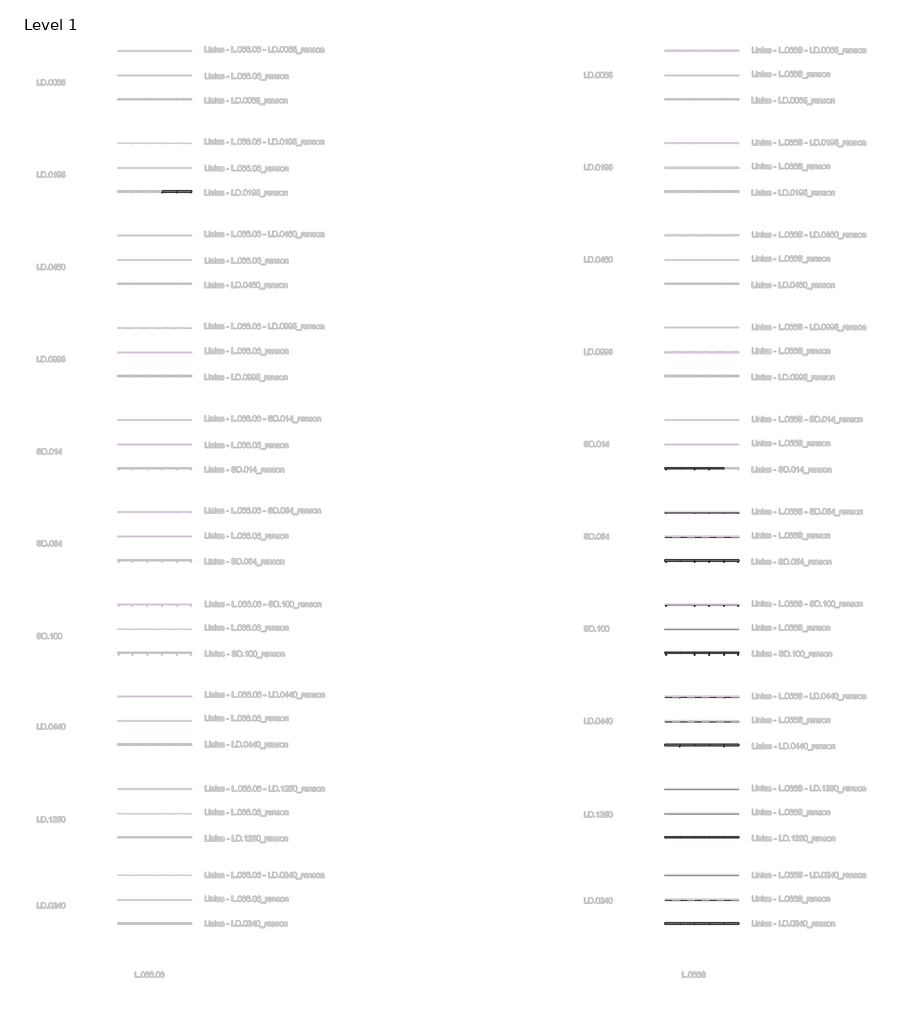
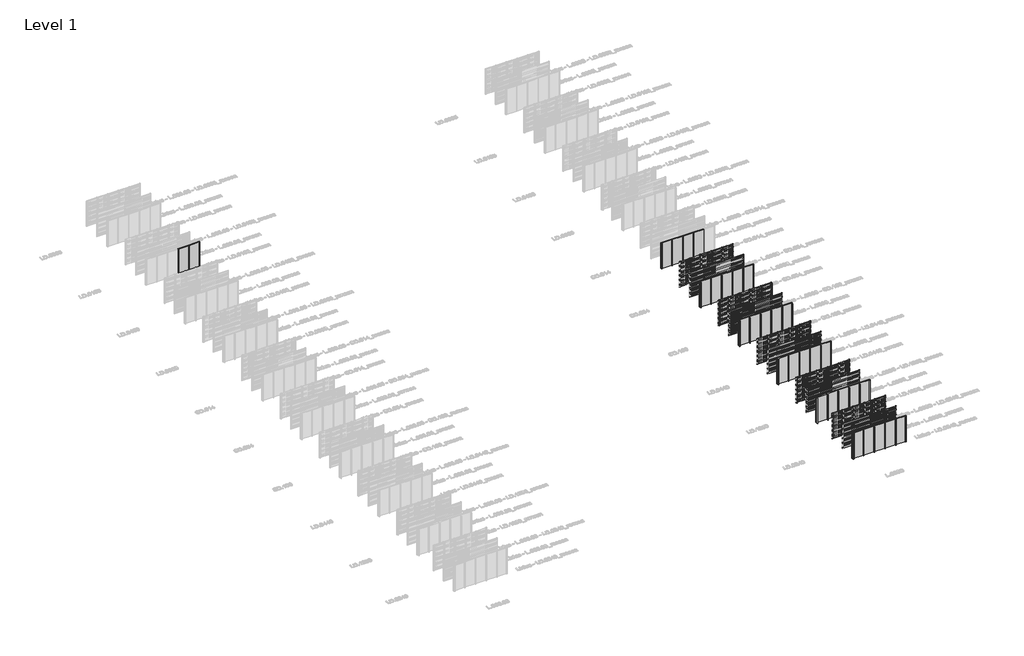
# One storey, part 4 of 540: 67 members, 61 plates.
"""IFC4 building model written with IfcOpenShell, lengths in millimetres."""

from ifc_helpers import new_model, si_unit, origin, origin_with_axes, place, context, project, spatial, polyline, outline, extrude, transform, mapped, element, save
from components import rectangular_mullion_e1f482b2, rectangular_mullion_3facce28, rectangular_mullion_6cf2c509, rectangular_mullion_8b77bd57, rectangular_mullion_2c867e25, rectangular_mullion_7803f5c4, rectangular_mullion_82152e2f, rectangular_mullion_aa1047c5, rectangular_mullion_2b84ad7e, rectangular_mullion_9b796d85, rectangular_mullion_dfb17e98, rectangular_mullion_6132f1f1, rectangular_mullion_8f153c19, rectangular_mullion_5b30f3fd, rectangular_mullion_5e0e8e0a, rectangular_mullion_d2d38772, rectangular_mullion_efb80f74, rectangular_mullion_aaa1fb1b, rectangular_mullion_ea9d012c, empty_system_panel_empty_aabbdda4

model = new_model("IFC4")

# Units and contexts
model_context = context("Model", 3, world=origin())
ifc_project = project(units=[si_unit("LENGTHUNIT", "METRE", prefix="MILLI")], contexts=[model_context])

# Site, building, storey
site = spatial("IfcSite", under=ifc_project)
building = spatial("IfcBuilding", under=site)
storey = spatial("IfcBuildingStorey", under=building, Name="Level 1", Elevation=0.0)

# Members
placement = place(None, origin())
rectangular_mullion_shape = rectangular_mullion_e1f482b2(model_context)
element("IfcMember", 1, ObjectType="Rectangular Mullion : LD.0195_renson", at=placement, inside=storey, context=model_context, shape_type="MappedRepresentation", body=[
    mapped(rectangular_mullion_shape, transform((49766.6208097, 62481.0540136, 0.0), x_axis=(-1.0, 0.0, 0.0), y_axis=(0.0, 1.0, 0.0), z_axis=(0.0, 0.0, -1.0))),
])
element("IfcMember", 2, ObjectType="Rectangular Mullion : LD.0195_renson", at=placement, inside=storey, context=model_context, shape_type="MappedRepresentation", body=[
    mapped(rectangular_mullion_shape, transform((48566.6208097, 62481.0540136, 0.0), x_axis=(-1.0, 0.0, 0.0), y_axis=(0.0, 1.0, 0.0), z_axis=(0.0, 0.0, -1.0))),
])
rectangular_mullion_2_shape = rectangular_mullion_3facce28(model_context)
element("IfcMember", 3, ObjectType="Rectangular Mullion : SD.014_renson", at=placement, inside=storey, context=model_context, shape_type="MappedRepresentation", body=[
    mapped(rectangular_mullion_2_shape, transform((93066.6208096, 39983.0540136, 0.0), x_axis=(-1.0, 0.0, 0.0), y_axis=(0.0, 1.0, 0.0), z_axis=(0.0, 0.0, -1.0))),
])
element("IfcMember", 4, ObjectType="Rectangular Mullion : SD.014_renson", at=placement, inside=storey, context=model_context, shape_type="MappedRepresentation", body=[
    mapped(rectangular_mullion_2_shape, transform((91866.6208097, 39983.0540136, 0.0), x_axis=(-1.0, 0.0, 0.0), y_axis=(0.0, 1.0, 0.0), z_axis=(0.0, 0.0, -1.0))),
])
element("IfcMember", 5, ObjectType="Rectangular Mullion : SD.014_renson", at=placement, inside=storey, context=model_context, shape_type="MappedRepresentation", body=[
    mapped(rectangular_mullion_2_shape, transform((90666.6208099, 39983.0540136, 0.0), x_axis=(-1.0, 0.0, 0.0), y_axis=(0.0, 1.0, 0.0), z_axis=(0.0, 0.0, -1.0))),
])
rectangular_mullion_3_shape = rectangular_mullion_6cf2c509(model_context)
element("IfcMember", 6, ObjectType="Rectangular Mullion : SD.054_renson", at=placement, inside=storey, context=model_context, shape_type="MappedRepresentation", body=[
    mapped(rectangular_mullion_3_shape, transform((93066.6208096, 36483.0540136, 0.0), x_axis=(-1.0, 0.0, 0.0), y_axis=(0.0, 1.0, 0.0), z_axis=(0.0, 0.0, -1.0))),
])
element("IfcMember", 7, ObjectType="Rectangular Mullion : SD.054_renson", at=placement, inside=storey, context=model_context, shape_type="MappedRepresentation", body=[
    mapped(rectangular_mullion_3_shape, transform((91866.6208097, 36483.0540136, 0.0), x_axis=(-1.0, 0.0, 0.0), y_axis=(0.0, 1.0, 0.0), z_axis=(0.0, 0.0, -1.0))),
])
element("IfcMember", 8, ObjectType="Rectangular Mullion : SD.054_renson", at=placement, inside=storey, context=model_context, shape_type="MappedRepresentation", body=[
    mapped(rectangular_mullion_3_shape, transform((90666.6208099, 36483.0540136, 0.0), x_axis=(-1.0, 0.0, 0.0), y_axis=(0.0, 1.0, 0.0), z_axis=(0.0, 0.0, -1.0))),
])
element("IfcMember", 9, ObjectType="Rectangular Mullion : SD.054_renson", at=placement, inside=storey, context=model_context, shape_type="MappedRepresentation", body=[
    mapped(rectangular_mullion_3_shape, transform((94266.6208095, 32483.0540136, 0.0), x_axis=(-1.0, 0.0, 0.0), y_axis=(0.0, 1.0, 0.0), z_axis=(0.0, 0.0, -1.0))),
])
element("IfcMember", 10, ObjectType="Rectangular Mullion : SD.054_renson", at=placement, inside=storey, context=model_context, shape_type="MappedRepresentation", body=[
    mapped(rectangular_mullion_3_shape, transform((93066.6208096, 32483.0540136, 0.0), x_axis=(-1.0, 0.0, 0.0), y_axis=(0.0, 1.0, 0.0), z_axis=(0.0, 0.0, -1.0))),
])
element("IfcMember", 11, ObjectType="Rectangular Mullion : SD.054_renson", at=placement, inside=storey, context=model_context, shape_type="MappedRepresentation", body=[
    mapped(rectangular_mullion_3_shape, transform((91866.6208097, 32483.0540136, 0.0), x_axis=(-1.0, 0.0, 0.0), y_axis=(0.0, 1.0, 0.0), z_axis=(0.0, 0.0, -1.0))),
])
element("IfcMember", 12, ObjectType="Rectangular Mullion : SD.054_renson", at=placement, inside=storey, context=model_context, shape_type="MappedRepresentation", body=[
    mapped(rectangular_mullion_3_shape, transform((90666.6208099, 32483.0540136, 0.0), x_axis=(-1.0, 0.0, 0.0), y_axis=(0.0, 1.0, 0.0), z_axis=(0.0, 0.0, -1.0))),
])
element("IfcMember", 13, ObjectType="Rectangular Mullion : SD.054_renson", at=placement, inside=storey, context=model_context, shape_type="MappedRepresentation", body=[
    mapped(rectangular_mullion_3_shape, transform((94266.6208095, 36483.0540136, 0.0), x_axis=(-1.0, 0.0, 0.0), y_axis=(0.0, 1.0, 0.0), z_axis=(0.0, 0.0, -1.0))),
])
rectangular_mullion_4_shape = rectangular_mullion_8b77bd57(model_context)
element("IfcMember", 14, ObjectType="Rectangular Mullion : SD.100_renson", at=placement, inside=storey, context=model_context, shape_type="MappedRepresentation", body=[
    mapped(rectangular_mullion_4_shape, transform((93066.6208096, 28983.0540136, 0.0), x_axis=(-1.0, 0.0, 0.0), y_axis=(0.0, 1.0, 0.0), z_axis=(0.0, 0.0, -1.0))),
])
element("IfcMember", 15, ObjectType="Rectangular Mullion : SD.100_renson", at=placement, inside=storey, context=model_context, shape_type="MappedRepresentation", body=[
    mapped(rectangular_mullion_4_shape, transform((91866.6208097, 28983.0540136, 0.0), x_axis=(-1.0, 0.0, 0.0), y_axis=(0.0, 1.0, 0.0), z_axis=(0.0, 0.0, -1.0))),
])
element("IfcMember", 16, ObjectType="Rectangular Mullion : SD.100_renson", at=placement, inside=storey, context=model_context, shape_type="MappedRepresentation", body=[
    mapped(rectangular_mullion_4_shape, transform((90666.6208099, 28983.0540136, 0.0), x_axis=(-1.0, 0.0, 0.0), y_axis=(0.0, 1.0, 0.0), z_axis=(0.0, 0.0, -1.0))),
])
element("IfcMember", 17, ObjectType="Rectangular Mullion : SD.100_renson", at=placement, inside=storey, context=model_context, shape_type="MappedRepresentation", body=[
    mapped(rectangular_mullion_4_shape, transform((94266.6208095, 24983.0540136, 0.0), x_axis=(-1.0, 0.0, 0.0), y_axis=(0.0, 1.0, 0.0), z_axis=(0.0, 0.0, -1.0))),
])
element("IfcMember", 18, ObjectType="Rectangular Mullion : SD.100_renson", at=placement, inside=storey, context=model_context, shape_type="MappedRepresentation", body=[
    mapped(rectangular_mullion_4_shape, transform((93066.6208096, 24983.0540136, 0.0), x_axis=(-1.0, 0.0, 0.0), y_axis=(0.0, 1.0, 0.0), z_axis=(0.0, 0.0, -1.0))),
])
element("IfcMember", 19, ObjectType="Rectangular Mullion : SD.100_renson", at=placement, inside=storey, context=model_context, shape_type="MappedRepresentation", body=[
    mapped(rectangular_mullion_4_shape, transform((91866.6208097, 24983.0540136, 0.0), x_axis=(-1.0, 0.0, 0.0), y_axis=(0.0, 1.0, 0.0), z_axis=(0.0, 0.0, -1.0))),
])
element("IfcMember", 20, ObjectType="Rectangular Mullion : SD.100_renson", at=placement, inside=storey, context=model_context, shape_type="MappedRepresentation", body=[
    mapped(rectangular_mullion_4_shape, transform((90666.6208099, 24983.0540136, 0.0), x_axis=(-1.0, 0.0, 0.0), y_axis=(0.0, 1.0, 0.0), z_axis=(0.0, 0.0, -1.0))),
])
element("IfcMember", 21, ObjectType="Rectangular Mullion : SD.100_renson", at=placement, inside=storey, context=model_context, shape_type="MappedRepresentation", body=[
    mapped(rectangular_mullion_4_shape, transform((94266.6208095, 28983.0540136, 0.0), x_axis=(-1.0, 0.0, 0.0), y_axis=(0.0, 1.0, 0.0), z_axis=(0.0, 0.0, -1.0))),
])
rectangular_mullion_5_shape = rectangular_mullion_2c867e25(model_context)
element("IfcMember", 22, ObjectType="Rectangular Mullion : LD.0440_renson", at=placement, inside=storey, context=model_context, shape_type="MappedRepresentation", body=[
    mapped(rectangular_mullion_5_shape, transform((93066.6208096, 21483.0540136, 0.0), x_axis=(-1.0, 0.0, 0.0), y_axis=(0.0, 1.0, 0.0), z_axis=(0.0, 0.0, -1.0))),
])
element("IfcMember", 23, ObjectType="Rectangular Mullion : LD.0440_renson", at=placement, inside=storey, context=model_context, shape_type="MappedRepresentation", body=[
    mapped(rectangular_mullion_5_shape, transform((91866.6208097, 21483.0540136, 0.0), x_axis=(-1.0, 0.0, 0.0), y_axis=(0.0, 1.0, 0.0), z_axis=(0.0, 0.0, -1.0))),
])
element("IfcMember", 24, ObjectType="Rectangular Mullion : LD.0440_renson", at=placement, inside=storey, context=model_context, shape_type="MappedRepresentation", body=[
    mapped(rectangular_mullion_5_shape, transform((90666.6208099, 21483.0540136, 0.0), x_axis=(-1.0, 0.0, 0.0), y_axis=(0.0, 1.0, 0.0), z_axis=(0.0, 0.0, -1.0))),
])
element("IfcMember", 25, ObjectType="Rectangular Mullion : LD.0440_renson", at=placement, inside=storey, context=model_context, shape_type="MappedRepresentation", body=[
    mapped(rectangular_mullion_5_shape, transform((94266.6208095, 17483.0540136, 0.0), x_axis=(-1.0, 0.0, 0.0), y_axis=(0.0, 1.0, 0.0), z_axis=(0.0, 0.0, -1.0))),
])
element("IfcMember", 26, ObjectType="Rectangular Mullion : LD.0440_renson", at=placement, inside=storey, context=model_context, shape_type="MappedRepresentation", body=[
    mapped(rectangular_mullion_5_shape, transform((93066.6208096, 17483.0540136, 0.0), x_axis=(-1.0, 0.0, 0.0), y_axis=(0.0, 1.0, 0.0), z_axis=(0.0, 0.0, -1.0))),
])
element("IfcMember", 27, ObjectType="Rectangular Mullion : LD.0440_renson", at=placement, inside=storey, context=model_context, shape_type="MappedRepresentation", body=[
    mapped(rectangular_mullion_5_shape, transform((91866.6208097, 17483.0540136, 0.0), x_axis=(-1.0, 0.0, 0.0), y_axis=(0.0, 1.0, 0.0), z_axis=(0.0, 0.0, -1.0))),
])
element("IfcMember", 28, ObjectType="Rectangular Mullion : LD.0440_renson", at=placement, inside=storey, context=model_context, shape_type="MappedRepresentation", body=[
    mapped(rectangular_mullion_5_shape, transform((90666.6208099, 17483.0540136, 0.0), x_axis=(-1.0, 0.0, 0.0), y_axis=(0.0, 1.0, 0.0), z_axis=(0.0, 0.0, -1.0))),
])
element("IfcMember", 29, ObjectType="Rectangular Mullion : LD.0440_renson", at=placement, inside=storey, context=model_context, shape_type="MappedRepresentation", body=[
    mapped(rectangular_mullion_5_shape, transform((94266.6208095, 21483.0540136, 0.0), x_axis=(-1.0, 0.0, 0.0), y_axis=(0.0, 1.0, 0.0), z_axis=(0.0, 0.0, -1.0))),
])
rectangular_mullion_6_shape = rectangular_mullion_7803f5c4(model_context)
element("IfcMember", 30, ObjectType="Rectangular Mullion : LD.1250_renson", at=placement, inside=storey, context=model_context, shape_type="MappedRepresentation", body=[
    mapped(rectangular_mullion_6_shape, transform((93066.6208096, 13983.0540136, 0.0), x_axis=(-1.0, 0.0, 0.0), y_axis=(0.0, 1.0, 0.0), z_axis=(0.0, 0.0, -1.0))),
])
element("IfcMember", 31, ObjectType="Rectangular Mullion : LD.1250_renson", at=placement, inside=storey, context=model_context, shape_type="MappedRepresentation", body=[
    mapped(rectangular_mullion_6_shape, transform((91866.6208097, 13983.0540136, 0.0), x_axis=(-1.0, 0.0, 0.0), y_axis=(0.0, 1.0, 0.0), z_axis=(0.0, 0.0, -1.0))),
])
element("IfcMember", 32, ObjectType="Rectangular Mullion : LD.1250_renson", at=placement, inside=storey, context=model_context, shape_type="MappedRepresentation", body=[
    mapped(rectangular_mullion_6_shape, transform((90666.6208099, 13983.0540136, 0.0), x_axis=(-1.0, 0.0, 0.0), y_axis=(0.0, 1.0, 0.0), z_axis=(0.0, 0.0, -1.0))),
])
element("IfcMember", 33, ObjectType="Rectangular Mullion : LD.1250_renson", at=placement, inside=storey, context=model_context, shape_type="MappedRepresentation", body=[
    mapped(rectangular_mullion_6_shape, transform((94266.6208095, 9983.0540136, 0.0), x_axis=(-1.0, 0.0, 0.0), y_axis=(0.0, 1.0, 0.0), z_axis=(0.0, 0.0, -1.0))),
])
element("IfcMember", 34, ObjectType="Rectangular Mullion : LD.1250_renson", at=placement, inside=storey, context=model_context, shape_type="MappedRepresentation", body=[
    mapped(rectangular_mullion_6_shape, transform((93066.6208096, 9983.0540136, 0.0), x_axis=(-1.0, 0.0, 0.0), y_axis=(0.0, 1.0, 0.0), z_axis=(0.0, 0.0, -1.0))),
])
element("IfcMember", 35, ObjectType="Rectangular Mullion : LD.1250_renson", at=placement, inside=storey, context=model_context, shape_type="MappedRepresentation", body=[
    mapped(rectangular_mullion_6_shape, transform((91866.6208097, 9983.0540136, 0.0), x_axis=(-1.0, 0.0, 0.0), y_axis=(0.0, 1.0, 0.0), z_axis=(0.0, 0.0, -1.0))),
])
element("IfcMember", 36, ObjectType="Rectangular Mullion : LD.1250_renson", at=placement, inside=storey, context=model_context, shape_type="MappedRepresentation", body=[
    mapped(rectangular_mullion_6_shape, transform((90666.6208099, 9983.0540136, 0.0), x_axis=(-1.0, 0.0, 0.0), y_axis=(0.0, 1.0, 0.0), z_axis=(0.0, 0.0, -1.0))),
])
element("IfcMember", 37, ObjectType="Rectangular Mullion : LD.1250_renson", at=placement, inside=storey, context=model_context, shape_type="MappedRepresentation", body=[
    mapped(rectangular_mullion_6_shape, transform((94266.6208095, 13983.0540136, 0.0), x_axis=(-1.0, 0.0, 0.0), y_axis=(0.0, 1.0, 0.0), z_axis=(0.0, 0.0, -1.0))),
])
rectangular_mullion_7_shape = rectangular_mullion_82152e2f(model_context)
element("IfcMember", 38, ObjectType="Rectangular Mullion : LD.0240_renson", at=placement, inside=storey, context=model_context, shape_type="MappedRepresentation", body=[
    mapped(rectangular_mullion_7_shape, transform((93066.6208096, 6987.0270068, 0.0), x_axis=(-1.0, 0.0, 0.0), y_axis=(0.0, 1.0, 0.0), z_axis=(0.0, 0.0, -1.0))),
])
element("IfcMember", 39, ObjectType="Rectangular Mullion : LD.0240_renson", at=placement, inside=storey, context=model_context, shape_type="MappedRepresentation", body=[
    mapped(rectangular_mullion_7_shape, transform((91866.6208097, 6987.0270068, 0.0), x_axis=(-1.0, 0.0, 0.0), y_axis=(0.0, 1.0, 0.0), z_axis=(0.0, 0.0, -1.0))),
])
element("IfcMember", 40, ObjectType="Rectangular Mullion : LD.0240_renson", at=placement, inside=storey, context=model_context, shape_type="MappedRepresentation", body=[
    mapped(rectangular_mullion_7_shape, transform((90666.6208099, 6987.0270068, 0.0), x_axis=(-1.0, 0.0, 0.0), y_axis=(0.0, 1.0, 0.0), z_axis=(0.0, 0.0, -1.0))),
])
element("IfcMember", 41, ObjectType="Rectangular Mullion : LD.0240_renson", at=placement, inside=storey, context=model_context, shape_type="MappedRepresentation", body=[
    mapped(rectangular_mullion_7_shape, transform((94266.6208095, 2987.0270068, 0.0), x_axis=(-1.0, 0.0, 0.0), y_axis=(0.0, 1.0, 0.0), z_axis=(0.0, 0.0, -1.0))),
])
element("IfcMember", 42, ObjectType="Rectangular Mullion : LD.0240_renson", at=placement, inside=storey, context=model_context, shape_type="MappedRepresentation", body=[
    mapped(rectangular_mullion_7_shape, transform((93066.6208096, 2987.0270068, 0.0), x_axis=(-1.0, 0.0, 0.0), y_axis=(0.0, 1.0, 0.0), z_axis=(0.0, 0.0, -1.0))),
])
element("IfcMember", 43, ObjectType="Rectangular Mullion : LD.0240_renson", at=placement, inside=storey, context=model_context, shape_type="MappedRepresentation", body=[
    mapped(rectangular_mullion_7_shape, transform((91866.6208097, 2987.0270068, 0.0), x_axis=(-1.0, 0.0, 0.0), y_axis=(0.0, 1.0, 0.0), z_axis=(0.0, 0.0, -1.0))),
])
element("IfcMember", 44, ObjectType="Rectangular Mullion : LD.0240_renson", at=placement, inside=storey, context=model_context, shape_type="MappedRepresentation", body=[
    mapped(rectangular_mullion_7_shape, transform((90666.6208099, 2987.0270068, 0.0), x_axis=(-1.0, 0.0, 0.0), y_axis=(0.0, 1.0, 0.0), z_axis=(0.0, 0.0, -1.0))),
])
element("IfcMember", 45, ObjectType="Rectangular Mullion : LD.0240_renson", at=placement, inside=storey, context=model_context, shape_type="MappedRepresentation", body=[
    mapped(rectangular_mullion_7_shape, transform((94266.6208095, 6987.0270068, 0.0), x_axis=(-1.0, 0.0, 0.0), y_axis=(0.0, 1.0, 0.0), z_axis=(0.0, 0.0, -1.0))),
])
rectangular_mullion_8_shape = rectangular_mullion_aa1047c5(model_context)
element("IfcMember", 46, ObjectType="Rectangular Mullion : LD.0195 - right_renson", at=placement, inside=storey, context=model_context, shape_type="MappedRepresentation", body=[
    mapped(rectangular_mullion_8_shape, transform((50966.6208097, 62481.0540136, 3000.0), x_axis=(1.0, 0.0, 0.0), y_axis=(0.0, 1.0, 0.0), z_axis=(0.0, 0.0, 1.0))),
])
rectangular_mullion_9_shape = rectangular_mullion_2b84ad7e(model_context)
element("IfcMember", 47, ObjectType="Rectangular Mullion : SD.014 - left_renson", at=placement, inside=storey, context=model_context, shape_type="MappedRepresentation", body=[
    mapped(rectangular_mullion_9_shape, transform((89466.6208097, 39983.0540136, 0.0), x_axis=(-1.0, 0.0, 0.0), y_axis=(0.0, 1.0, 0.0), z_axis=(0.0, 0.0, -1.0))),
])
rectangular_mullion_10_shape = rectangular_mullion_9b796d85(model_context)
element("IfcMember", 48, ObjectType="Rectangular Mullion : SD.054 - left_renson", at=placement, inside=storey, context=model_context, shape_type="MappedRepresentation", body=[
    mapped(rectangular_mullion_10_shape, transform((89466.6208097, 36483.0540136, 0.0), x_axis=(-1.0, 0.0, 0.0), y_axis=(0.0, 1.0, 0.0), z_axis=(0.0, 0.0, -1.0))),
])
element("IfcMember", 49, ObjectType="Rectangular Mullion : SD.054 - left_renson", at=placement, inside=storey, context=model_context, shape_type="MappedRepresentation", body=[
    mapped(rectangular_mullion_10_shape, transform((89466.6208097, 32483.0540136, 0.0), x_axis=(-1.0, 0.0, 0.0), y_axis=(0.0, 1.0, 0.0), z_axis=(0.0, 0.0, -1.0))),
])
rectangular_mullion_11_shape = rectangular_mullion_dfb17e98(model_context)
element("IfcMember", 50, ObjectType="Rectangular Mullion : SD.054 - right_renson", at=placement, inside=storey, context=model_context, shape_type="MappedRepresentation", body=[
    mapped(rectangular_mullion_11_shape, transform((95466.6208097, 36483.0540136, 3000.0), x_axis=(1.0, 0.0, 0.0), y_axis=(0.0, 1.0, 0.0), z_axis=(0.0, 0.0, 1.0))),
])
element("IfcMember", 51, ObjectType="Rectangular Mullion : SD.054 - right_renson", at=placement, inside=storey, context=model_context, shape_type="MappedRepresentation", body=[
    mapped(rectangular_mullion_11_shape, transform((95466.6208097, 32483.0540136, 3000.0), x_axis=(1.0, 0.0, 0.0), y_axis=(0.0, 1.0, 0.0), z_axis=(0.0, 0.0, 1.0))),
])
rectangular_mullion_12_shape = rectangular_mullion_6132f1f1(model_context)
element("IfcMember", 52, ObjectType="Rectangular Mullion : SD.100 - left_renson", at=placement, inside=storey, context=model_context, shape_type="MappedRepresentation", body=[
    mapped(rectangular_mullion_12_shape, transform((89466.6208097, 28983.0540136, 0.0), x_axis=(-1.0, 0.0, 0.0), y_axis=(0.0, 1.0, 0.0), z_axis=(0.0, 0.0, -1.0))),
])
element("IfcMember", 53, ObjectType="Rectangular Mullion : SD.100 - left_renson", at=placement, inside=storey, context=model_context, shape_type="MappedRepresentation", body=[
    mapped(rectangular_mullion_12_shape, transform((89466.6208097, 24983.0540136, 0.0), x_axis=(-1.0, 0.0, 0.0), y_axis=(0.0, 1.0, 0.0), z_axis=(0.0, 0.0, -1.0))),
])
rectangular_mullion_13_shape = rectangular_mullion_8f153c19(model_context)
element("IfcMember", 54, ObjectType="Rectangular Mullion : SD.100 - right_renson", at=placement, inside=storey, context=model_context, shape_type="MappedRepresentation", body=[
    mapped(rectangular_mullion_13_shape, transform((95466.6208097, 28983.0540136, 3000.0), x_axis=(1.0, 0.0, 0.0), y_axis=(0.0, 1.0, 0.0), z_axis=(0.0, 0.0, 1.0))),
])
element("IfcMember", 55, ObjectType="Rectangular Mullion : SD.100 - right_renson", at=placement, inside=storey, context=model_context, shape_type="MappedRepresentation", body=[
    mapped(rectangular_mullion_13_shape, transform((95466.6208097, 24983.0540136, 3000.0), x_axis=(1.0, 0.0, 0.0), y_axis=(0.0, 1.0, 0.0), z_axis=(0.0, 0.0, 1.0))),
])
rectangular_mullion_14_shape = rectangular_mullion_5b30f3fd(model_context)
element("IfcMember", 56, ObjectType="Rectangular Mullion : LD.0440 - left_renson", at=placement, inside=storey, context=model_context, shape_type="MappedRepresentation", body=[
    mapped(rectangular_mullion_14_shape, transform((89466.6208097, 21483.0540136, 0.0), x_axis=(-1.0, 0.0, 0.0), y_axis=(0.0, 1.0, 0.0), z_axis=(0.0, 0.0, -1.0))),
])
element("IfcMember", 57, ObjectType="Rectangular Mullion : LD.0440 - left_renson", at=placement, inside=storey, context=model_context, shape_type="MappedRepresentation", body=[
    mapped(rectangular_mullion_14_shape, transform((89466.6208097, 17483.0540136, 0.0), x_axis=(-1.0, 0.0, 0.0), y_axis=(0.0, 1.0, 0.0), z_axis=(0.0, 0.0, -1.0))),
])
rectangular_mullion_15_shape = rectangular_mullion_5e0e8e0a(model_context)
element("IfcMember", 58, ObjectType="Rectangular Mullion : LD.0440 - right_renson", at=placement, inside=storey, context=model_context, shape_type="MappedRepresentation", body=[
    mapped(rectangular_mullion_15_shape, transform((95466.6208097, 21483.0540136, 3000.0), x_axis=(1.0, 0.0, 0.0), y_axis=(0.0, 1.0, 0.0), z_axis=(0.0, 0.0, 1.0))),
])
element("IfcMember", 59, ObjectType="Rectangular Mullion : LD.0440 - right_renson", at=placement, inside=storey, context=model_context, shape_type="MappedRepresentation", body=[
    mapped(rectangular_mullion_15_shape, transform((95466.6208097, 17483.0540136, 3000.0), x_axis=(1.0, 0.0, 0.0), y_axis=(0.0, 1.0, 0.0), z_axis=(0.0, 0.0, 1.0))),
])
rectangular_mullion_16_shape = rectangular_mullion_d2d38772(model_context)
element("IfcMember", 60, ObjectType="Rectangular Mullion : LD.1250 - left_renson", at=placement, inside=storey, context=model_context, shape_type="MappedRepresentation", body=[
    mapped(rectangular_mullion_16_shape, transform((89466.6208097, 13983.0540136, 0.0), x_axis=(-1.0, 0.0, 0.0), y_axis=(0.0, 1.0, 0.0), z_axis=(0.0, 0.0, -1.0))),
])
element("IfcMember", 61, ObjectType="Rectangular Mullion : LD.1250 - left_renson", at=placement, inside=storey, context=model_context, shape_type="MappedRepresentation", body=[
    mapped(rectangular_mullion_16_shape, transform((89466.6208097, 9983.0540136, 0.0), x_axis=(-1.0, 0.0, 0.0), y_axis=(0.0, 1.0, 0.0), z_axis=(0.0, 0.0, -1.0))),
])
rectangular_mullion_17_shape = rectangular_mullion_efb80f74(model_context)
element("IfcMember", 62, ObjectType="Rectangular Mullion : LD.1250 - right_renson", at=placement, inside=storey, context=model_context, shape_type="MappedRepresentation", body=[
    mapped(rectangular_mullion_17_shape, transform((95466.6208097, 13983.0540136, 3000.0), x_axis=(1.0, 0.0, 0.0), y_axis=(0.0, 1.0, 0.0), z_axis=(0.0, 0.0, 1.0))),
])
element("IfcMember", 63, ObjectType="Rectangular Mullion : LD.1250 - right_renson", at=placement, inside=storey, context=model_context, shape_type="MappedRepresentation", body=[
    mapped(rectangular_mullion_17_shape, transform((95466.6208097, 9983.0540136, 3000.0), x_axis=(1.0, 0.0, 0.0), y_axis=(0.0, 1.0, 0.0), z_axis=(0.0, 0.0, 1.0))),
])
rectangular_mullion_18_shape = rectangular_mullion_aaa1fb1b(model_context)
element("IfcMember", 64, ObjectType="Rectangular Mullion : LD.0240 - left_renson", at=placement, inside=storey, context=model_context, shape_type="MappedRepresentation", body=[
    mapped(rectangular_mullion_18_shape, transform((89466.6208097, 6987.0270068, 0.0), x_axis=(-1.0, 0.0, 0.0), y_axis=(0.0, 1.0, 0.0), z_axis=(0.0, 0.0, -1.0))),
])
element("IfcMember", 65, ObjectType="Rectangular Mullion : LD.0240 - left_renson", at=placement, inside=storey, context=model_context, shape_type="MappedRepresentation", body=[
    mapped(rectangular_mullion_18_shape, transform((89466.6208097, 2987.0270068, 0.0), x_axis=(-1.0, 0.0, 0.0), y_axis=(0.0, 1.0, 0.0), z_axis=(0.0, 0.0, -1.0))),
])
rectangular_mullion_19_shape = rectangular_mullion_ea9d012c(model_context)
element("IfcMember", 66, ObjectType="Rectangular Mullion : LD.0240 - right_renson", at=placement, inside=storey, context=model_context, shape_type="MappedRepresentation", body=[
    mapped(rectangular_mullion_19_shape, transform((95466.6208097, 6987.0270068, 3000.0), x_axis=(1.0, 0.0, 0.0), y_axis=(0.0, 1.0, 0.0), z_axis=(0.0, 0.0, 1.0))),
])
element("IfcMember", 67, ObjectType="Rectangular Mullion : LD.0240 - right_renson", at=placement, inside=storey, context=model_context, shape_type="MappedRepresentation", body=[
    mapped(rectangular_mullion_19_shape, transform((95466.6208097, 2987.0270068, 3000.0), x_axis=(1.0, 0.0, 0.0), y_axis=(0.0, 1.0, 0.0), z_axis=(0.0, 0.0, 1.0))),
])

# Plates
element("IfcPlate", 68, ObjectType="Linius - L.066S_renson", at=placement, inside=storey, context=model_context, shape_type="SweptSolid", body=[
    extrude(outline(polyline([(89466.6208097, 36484.0540136), (90666.6208099, 36484.0540136), (90666.6208099, 36482.0540136), (89466.6208097, 36482.0540136), (89466.6208097, 36484.0540136)])), origin_with_axes(), (0.0, 0.0, 1.0), 3000.0),
])
element("IfcPlate", 69, ObjectType="Linius - L.066S_renson", at=placement, inside=storey, context=model_context, shape_type="SweptSolid", body=[
    extrude(outline(polyline([(90666.6208099, 36484.0540136), (91866.6208097, 36484.0540136), (91866.6208097, 36482.0540136), (90666.6208099, 36482.0540136), (90666.6208099, 36484.0540136)])), origin_with_axes(), (0.0, 0.0, 1.0), 3000.0),
])
element("IfcPlate", 70, ObjectType="Linius - L.066S_renson", at=placement, inside=storey, context=model_context, shape_type="SweptSolid", body=[
    extrude(outline(polyline([(91866.6208097, 36484.0540136), (93066.6208096, 36484.0540136), (93066.6208096, 36482.0540136), (91866.6208097, 36482.0540136), (91866.6208097, 36484.0540136)])), origin_with_axes(), (0.0, 0.0, 1.0), 3000.0),
])
element("IfcPlate", 71, ObjectType="Linius - L.066S_renson", at=placement, inside=storey, context=model_context, shape_type="SweptSolid", body=[
    extrude(outline(polyline([(94266.6208095, 36484.0540136), (95466.6208097, 36484.0540136), (95466.6208097, 36482.0540136), (94266.6208095, 36482.0540136), (94266.6208095, 36484.0540136)])), origin_with_axes(), (0.0, 0.0, 1.0), 3000.0),
])
element("IfcPlate", 72, ObjectType="Linius - L.066S_renson", at=placement, inside=storey, context=model_context, shape_type="SweptSolid", body=[
    extrude(outline(polyline([(89466.6208097, 34484.0540136), (95466.6208097, 34484.0540136), (95466.6208097, 34482.0540136), (89466.6208097, 34482.0540136), (89466.6208097, 34484.0540136)])), origin_with_axes(), (0.0, 0.0, 1.0), 3000.0),
])
element("IfcPlate", 73, ObjectType="Linius - L.066S_renson", at=placement, inside=storey, context=model_context, shape_type="SweptSolid", body=[
    extrude(outline(polyline([(89466.6208097, 28984.0540136), (90666.6208099, 28984.0540136), (90666.6208099, 28982.0540136), (89466.6208097, 28982.0540136), (89466.6208097, 28984.0540136)])), origin_with_axes(), (0.0, 0.0, 1.0), 3000.0),
])
element("IfcPlate", 74, ObjectType="Linius - L.066S_renson", at=placement, inside=storey, context=model_context, shape_type="SweptSolid", body=[
    extrude(outline(polyline([(90666.6208099, 28984.0540136), (91866.6208097, 28984.0540136), (91866.6208097, 28982.0540136), (90666.6208099, 28982.0540136), (90666.6208099, 28984.0540136)])), origin_with_axes(), (0.0, 0.0, 1.0), 3000.0),
])
element("IfcPlate", 75, ObjectType="Linius - L.066S_renson", at=placement, inside=storey, context=model_context, shape_type="SweptSolid", body=[
    extrude(outline(polyline([(91866.6208097, 28984.0540136), (93066.6208096, 28984.0540136), (93066.6208096, 28982.0540136), (91866.6208097, 28982.0540136), (91866.6208097, 28984.0540136)])), origin_with_axes(), (0.0, 0.0, 1.0), 3000.0),
])
element("IfcPlate", 76, ObjectType="Linius - L.066S_renson", at=placement, inside=storey, context=model_context, shape_type="SweptSolid", body=[
    extrude(outline(polyline([(94266.6208095, 28984.0540136), (95466.6208097, 28984.0540136), (95466.6208097, 28982.0540136), (94266.6208095, 28982.0540136), (94266.6208095, 28984.0540136)])), origin_with_axes(), (0.0, 0.0, 1.0), 3000.0),
])
element("IfcPlate", 77, ObjectType="Linius - L.066S_renson", at=placement, inside=storey, context=model_context, shape_type="SweptSolid", body=[
    extrude(outline(polyline([(89466.6208097, 26984.0540136), (95466.6208097, 26984.0540136), (95466.6208097, 26982.0540136), (89466.6208097, 26982.0540136), (89466.6208097, 26984.0540136)])), origin_with_axes(), (0.0, 0.0, 1.0), 3000.0),
])
element("IfcPlate", 78, ObjectType="Linius - L.066S_renson", at=placement, inside=storey, context=model_context, shape_type="SweptSolid", body=[
    extrude(outline(polyline([(89466.6208097, 21484.0540136), (90666.6208099, 21484.0540136), (90666.6208099, 21482.0540136), (89466.6208097, 21482.0540136), (89466.6208097, 21484.0540136)])), origin_with_axes(), (0.0, 0.0, 1.0), 3000.0),
])
element("IfcPlate", 79, ObjectType="Linius - L.066S_renson", at=placement, inside=storey, context=model_context, shape_type="SweptSolid", body=[
    extrude(outline(polyline([(90666.6208099, 21484.0540136), (91866.6208097, 21484.0540136), (91866.6208097, 21482.0540136), (90666.6208099, 21482.0540136), (90666.6208099, 21484.0540136)])), origin_with_axes(), (0.0, 0.0, 1.0), 3000.0),
])
element("IfcPlate", 80, ObjectType="Linius - L.066S_renson", at=placement, inside=storey, context=model_context, shape_type="SweptSolid", body=[
    extrude(outline(polyline([(91866.6208097, 21484.0540136), (93066.6208096, 21484.0540136), (93066.6208096, 21482.0540136), (91866.6208097, 21482.0540136), (91866.6208097, 21484.0540136)])), origin_with_axes(), (0.0, 0.0, 1.0), 3000.0),
])
element("IfcPlate", 81, ObjectType="Linius - L.066S_renson", at=placement, inside=storey, context=model_context, shape_type="SweptSolid", body=[
    extrude(outline(polyline([(94266.6208095, 21484.0540136), (95466.6208097, 21484.0540136), (95466.6208097, 21482.0540136), (94266.6208095, 21482.0540136), (94266.6208095, 21484.0540136)])), origin_with_axes(), (0.0, 0.0, 1.0), 3000.0),
])
element("IfcPlate", 82, ObjectType="Linius - L.066S_renson", at=placement, inside=storey, context=model_context, shape_type="SweptSolid", body=[
    extrude(outline(polyline([(89466.6208097, 19484.0540136), (95466.6208097, 19484.0540136), (95466.6208097, 19482.0540136), (89466.6208097, 19482.0540136), (89466.6208097, 19484.0540136)])), origin_with_axes(), (0.0, 0.0, 1.0), 3000.0),
])
element("IfcPlate", 83, ObjectType="Linius - L.066S_renson", at=placement, inside=storey, context=model_context, shape_type="SweptSolid", body=[
    extrude(outline(polyline([(89466.6208097, 13984.0540136), (90666.6208099, 13984.0540136), (90666.6208099, 13982.0540136), (89466.6208097, 13982.0540136), (89466.6208097, 13984.0540136)])), origin_with_axes(), (0.0, 0.0, 1.0), 3000.0),
])
element("IfcPlate", 84, ObjectType="Linius - L.066S_renson", at=placement, inside=storey, context=model_context, shape_type="SweptSolid", body=[
    extrude(outline(polyline([(90666.6208099, 13984.0540136), (91866.6208097, 13984.0540136), (91866.6208097, 13982.0540136), (90666.6208099, 13982.0540136), (90666.6208099, 13984.0540136)])), origin_with_axes(), (0.0, 0.0, 1.0), 3000.0),
])
element("IfcPlate", 85, ObjectType="Linius - L.066S_renson", at=placement, inside=storey, context=model_context, shape_type="SweptSolid", body=[
    extrude(outline(polyline([(91866.6208097, 13984.0540136), (93066.6208096, 13984.0540136), (93066.6208096, 13982.0540136), (91866.6208097, 13982.0540136), (91866.6208097, 13984.0540136)])), origin_with_axes(), (0.0, 0.0, 1.0), 3000.0),
])
element("IfcPlate", 86, ObjectType="Linius - L.066S_renson", at=placement, inside=storey, context=model_context, shape_type="SweptSolid", body=[
    extrude(outline(polyline([(94266.6208095, 13984.0540136), (95466.6208097, 13984.0540136), (95466.6208097, 13982.0540136), (94266.6208095, 13982.0540136), (94266.6208095, 13984.0540136)])), origin_with_axes(), (0.0, 0.0, 1.0), 3000.0),
])
element("IfcPlate", 87, ObjectType="Linius - L.066S_renson", at=placement, inside=storey, context=model_context, shape_type="SweptSolid", body=[
    extrude(outline(polyline([(89466.6208097, 11984.0540136), (95466.6208097, 11984.0540136), (95466.6208097, 11982.0540136), (89466.6208097, 11982.0540136), (89466.6208097, 11984.0540136)])), origin_with_axes(), (0.0, 0.0, 1.0), 3000.0),
])
element("IfcPlate", 88, ObjectType="Linius - L.066S_renson", at=placement, inside=storey, context=model_context, shape_type="SweptSolid", body=[
    extrude(outline(polyline([(89466.6208097, 6988.0270068), (90666.6208099, 6988.0270068), (90666.6208099, 6986.0270068), (89466.6208097, 6986.0270068), (89466.6208097, 6988.0270068)])), origin_with_axes(), (0.0, 0.0, 1.0), 3000.0),
])
element("IfcPlate", 89, ObjectType="Linius - L.066S_renson", at=placement, inside=storey, context=model_context, shape_type="SweptSolid", body=[
    extrude(outline(polyline([(90666.6208099, 6988.0270068), (91866.6208097, 6988.0270068), (91866.6208097, 6986.0270068), (90666.6208099, 6986.0270068), (90666.6208099, 6988.0270068)])), origin_with_axes(), (0.0, 0.0, 1.0), 3000.0),
])
element("IfcPlate", 90, ObjectType="Linius - L.066S_renson", at=placement, inside=storey, context=model_context, shape_type="SweptSolid", body=[
    extrude(outline(polyline([(91866.6208097, 6988.0270068), (93066.6208096, 6988.0270068), (93066.6208096, 6986.0270068), (91866.6208097, 6986.0270068), (91866.6208097, 6988.0270068)])), origin_with_axes(), (0.0, 0.0, 1.0), 3000.0),
])
element("IfcPlate", 91, ObjectType="Linius - L.066S_renson", at=placement, inside=storey, context=model_context, shape_type="SweptSolid", body=[
    extrude(outline(polyline([(94266.6208095, 6988.0270068), (95466.6208097, 6988.0270068), (95466.6208097, 6986.0270068), (94266.6208095, 6986.0270068), (94266.6208095, 6988.0270068)])), origin_with_axes(), (0.0, 0.0, 1.0), 3000.0),
])
element("IfcPlate", 92, ObjectType="Linius - L.066S_renson", at=placement, inside=storey, context=model_context, shape_type="SweptSolid", body=[
    extrude(outline(polyline([(89466.6208097, 4988.0270068), (95466.6208097, 4988.0270068), (95466.6208097, 4986.0270068), (89466.6208097, 4986.0270068), (89466.6208097, 4988.0270068)])), origin_with_axes(), (0.0, 0.0, 1.0), 3000.0),
])
element("IfcPlate", 93, ObjectType="Linius - L.066S_renson", at=placement, inside=storey, context=model_context, shape_type="SweptSolid", body=[
    extrude(outline(polyline([(93066.6208096, 6988.0270068), (94266.6208095, 6988.0270068), (94266.6208095, 6986.0270068), (93066.6208096, 6986.0270068), (93066.6208096, 6988.0270068)])), origin_with_axes(), (0.0, 0.0, 1.0), 3000.0),
])
element("IfcPlate", 94, ObjectType="Linius - L.066S_renson", at=placement, inside=storey, context=model_context, shape_type="SweptSolid", body=[
    extrude(outline(polyline([(93066.6208096, 21484.0540136), (94266.6208095, 21484.0540136), (94266.6208095, 21482.0540136), (93066.6208096, 21482.0540136), (93066.6208096, 21484.0540136)])), origin_with_axes(), (0.0, 0.0, 1.0), 3000.0),
])
element("IfcPlate", 95, ObjectType="Linius - L.066S_renson", at=placement, inside=storey, context=model_context, shape_type="SweptSolid", body=[
    extrude(outline(polyline([(93066.6208096, 13984.0540136), (94266.6208095, 13984.0540136), (94266.6208095, 13982.0540136), (93066.6208096, 13982.0540136), (93066.6208096, 13984.0540136)])), origin_with_axes(), (0.0, 0.0, 1.0), 3000.0),
])
element("IfcPlate", 96, ObjectType="Linius - L.066S_renson", at=placement, inside=storey, context=model_context, shape_type="SweptSolid", body=[
    extrude(outline(polyline([(93066.6208096, 36484.0540136), (94266.6208095, 36484.0540136), (94266.6208095, 36482.0540136), (93066.6208096, 36482.0540136), (93066.6208096, 36484.0540136)])), origin_with_axes(), (0.0, 0.0, 1.0), 3000.0),
])
element("IfcPlate", 97, ObjectType="Linius - L.066S_renson", at=placement, inside=storey, context=model_context, shape_type="SweptSolid", body=[
    extrude(outline(polyline([(93066.6208096, 28984.0540136), (94266.6208095, 28984.0540136), (94266.6208095, 28982.0540136), (93066.6208096, 28982.0540136), (93066.6208096, 28984.0540136)])), origin_with_axes(), (0.0, 0.0, 1.0), 3000.0),
])
empty_system_panel_empty_shape = empty_system_panel_empty_aabbdda4(model_context)
element("IfcPlate", 98, ObjectType="Empty System Panel : Empty", at=placement, inside=storey, context=model_context, shape_type="MappedRepresentation", body=[
    mapped(empty_system_panel_empty_shape, transform((50366.6208097, 62481.0540136, 0.0), x_axis=(-1.0, 0.0, 0.0), y_axis=(0.0, -1.0, 0.0), z_axis=(0.0, 0.0, 1.0))),
])
element("IfcPlate", 99, ObjectType="Empty System Panel : Empty", at=placement, inside=storey, context=model_context, shape_type="MappedRepresentation", body=[
    mapped(empty_system_panel_empty_shape, transform((49166.6208097, 62481.0540136, 0.0), x_axis=(-1.0, 0.0, 0.0), y_axis=(0.0, -1.0, 0.0), z_axis=(0.0, 0.0, 1.0))),
])
element("IfcPlate", 100, ObjectType="Empty System Panel : Empty", at=placement, inside=storey, context=model_context, shape_type="MappedRepresentation", body=[
    mapped(empty_system_panel_empty_shape, transform((94866.6208096, 32483.0540136, 0.0), x_axis=(-1.0, 0.0, 0.0), y_axis=(0.0, -1.0, 0.0), z_axis=(0.0, 0.0, 1.0))),
])
element("IfcPlate", 101, ObjectType="Empty System Panel : Empty", at=placement, inside=storey, context=model_context, shape_type="MappedRepresentation", body=[
    mapped(empty_system_panel_empty_shape, transform((94866.6208096, 24983.0540136, 0.0), x_axis=(-1.0, 0.0, 0.0), y_axis=(0.0, -1.0, 0.0), z_axis=(0.0, 0.0, 1.0))),
])
element("IfcPlate", 102, ObjectType="Empty System Panel : Empty", at=placement, inside=storey, context=model_context, shape_type="MappedRepresentation", body=[
    mapped(empty_system_panel_empty_shape, transform((94866.6208096, 17483.0540136, 0.0), x_axis=(-1.0, 0.0, 0.0), y_axis=(0.0, -1.0, 0.0), z_axis=(0.0, 0.0, 1.0))),
])
element("IfcPlate", 103, ObjectType="Empty System Panel : Empty", at=placement, inside=storey, context=model_context, shape_type="MappedRepresentation", body=[
    mapped(empty_system_panel_empty_shape, transform((94866.6208096, 9983.0540136, 0.0), x_axis=(-1.0, 0.0, 0.0), y_axis=(0.0, -1.0, 0.0), z_axis=(0.0, 0.0, 1.0))),
])
element("IfcPlate", 104, ObjectType="Empty System Panel : Empty", at=placement, inside=storey, context=model_context, shape_type="MappedRepresentation", body=[
    mapped(empty_system_panel_empty_shape, transform((94866.6208096, 2987.0270068, 0.0), x_axis=(-1.0, 0.0, 0.0), y_axis=(0.0, -1.0, 0.0), z_axis=(0.0, 0.0, 1.0))),
])
element("IfcPlate", 105, ObjectType="Empty System Panel : Empty", at=placement, inside=storey, context=model_context, shape_type="MappedRepresentation", body=[
    mapped(empty_system_panel_empty_shape, transform((93666.6208096, 39983.0540136, 0.0), x_axis=(-1.0, 0.0, 0.0), y_axis=(0.0, -1.0, 0.0), z_axis=(0.0, 0.0, 1.0))),
])
element("IfcPlate", 106, ObjectType="Empty System Panel : Empty", at=placement, inside=storey, context=model_context, shape_type="MappedRepresentation", body=[
    mapped(empty_system_panel_empty_shape, transform((92466.6208097, 39983.0540136, 0.0), x_axis=(-1.0, 0.0, 0.0), y_axis=(0.0, -1.0, 0.0), z_axis=(0.0, 0.0, 1.0))),
])
element("IfcPlate", 107, ObjectType="Empty System Panel : Empty", at=placement, inside=storey, context=model_context, shape_type="MappedRepresentation", body=[
    mapped(empty_system_panel_empty_shape, transform((91266.6208098, 39983.0540136, 0.0), x_axis=(-1.0, 0.0, 0.0), y_axis=(0.0, -1.0, 0.0), z_axis=(0.0, 0.0, 1.0))),
])
element("IfcPlate", 108, ObjectType="Empty System Panel : Empty", at=placement, inside=storey, context=model_context, shape_type="MappedRepresentation", body=[
    mapped(empty_system_panel_empty_shape, transform((90066.6208098, 39983.0540136, 0.0), x_axis=(-1.0, 0.0, 0.0), y_axis=(0.0, -1.0, 0.0), z_axis=(0.0, 0.0, 1.0))),
])
element("IfcPlate", 109, ObjectType="Empty System Panel : Empty", at=placement, inside=storey, context=model_context, shape_type="MappedRepresentation", body=[
    mapped(empty_system_panel_empty_shape, transform((93666.6208096, 32483.0540136, 0.0), x_axis=(-1.0, 0.0, 0.0), y_axis=(0.0, -1.0, 0.0), z_axis=(0.0, 0.0, 1.0))),
])
element("IfcPlate", 110, ObjectType="Empty System Panel : Empty", at=placement, inside=storey, context=model_context, shape_type="MappedRepresentation", body=[
    mapped(empty_system_panel_empty_shape, transform((92466.6208097, 32483.0540136, 0.0), x_axis=(-1.0, 0.0, 0.0), y_axis=(0.0, -1.0, 0.0), z_axis=(0.0, 0.0, 1.0))),
])
element("IfcPlate", 111, ObjectType="Empty System Panel : Empty", at=placement, inside=storey, context=model_context, shape_type="MappedRepresentation", body=[
    mapped(empty_system_panel_empty_shape, transform((91266.6208098, 32483.0540136, 0.0), x_axis=(-1.0, 0.0, 0.0), y_axis=(0.0, -1.0, 0.0), z_axis=(0.0, 0.0, 1.0))),
])
element("IfcPlate", 112, ObjectType="Empty System Panel : Empty", at=placement, inside=storey, context=model_context, shape_type="MappedRepresentation", body=[
    mapped(empty_system_panel_empty_shape, transform((90066.6208098, 32483.0540136, 0.0), x_axis=(-1.0, 0.0, 0.0), y_axis=(0.0, -1.0, 0.0), z_axis=(0.0, 0.0, 1.0))),
])
element("IfcPlate", 113, ObjectType="Empty System Panel : Empty", at=placement, inside=storey, context=model_context, shape_type="MappedRepresentation", body=[
    mapped(empty_system_panel_empty_shape, transform((93666.6208096, 24983.0540136, 0.0), x_axis=(-1.0, 0.0, 0.0), y_axis=(0.0, -1.0, 0.0), z_axis=(0.0, 0.0, 1.0))),
])
element("IfcPlate", 114, ObjectType="Empty System Panel : Empty", at=placement, inside=storey, context=model_context, shape_type="MappedRepresentation", body=[
    mapped(empty_system_panel_empty_shape, transform((92466.6208097, 24983.0540136, 0.0), x_axis=(-1.0, 0.0, 0.0), y_axis=(0.0, -1.0, 0.0), z_axis=(0.0, 0.0, 1.0))),
])
element("IfcPlate", 115, ObjectType="Empty System Panel : Empty", at=placement, inside=storey, context=model_context, shape_type="MappedRepresentation", body=[
    mapped(empty_system_panel_empty_shape, transform((91266.6208098, 24983.0540136, 0.0), x_axis=(-1.0, 0.0, 0.0), y_axis=(0.0, -1.0, 0.0), z_axis=(0.0, 0.0, 1.0))),
])
element("IfcPlate", 116, ObjectType="Empty System Panel : Empty", at=placement, inside=storey, context=model_context, shape_type="MappedRepresentation", body=[
    mapped(empty_system_panel_empty_shape, transform((90066.6208098, 24983.0540136, 0.0), x_axis=(-1.0, 0.0, 0.0), y_axis=(0.0, -1.0, 0.0), z_axis=(0.0, 0.0, 1.0))),
])
element("IfcPlate", 117, ObjectType="Empty System Panel : Empty", at=placement, inside=storey, context=model_context, shape_type="MappedRepresentation", body=[
    mapped(empty_system_panel_empty_shape, transform((93666.6208096, 17483.0540136, 0.0), x_axis=(-1.0, 0.0, 0.0), y_axis=(0.0, -1.0, 0.0), z_axis=(0.0, 0.0, 1.0))),
])
element("IfcPlate", 118, ObjectType="Empty System Panel : Empty", at=placement, inside=storey, context=model_context, shape_type="MappedRepresentation", body=[
    mapped(empty_system_panel_empty_shape, transform((92466.6208097, 17483.0540136, 0.0), x_axis=(-1.0, 0.0, 0.0), y_axis=(0.0, -1.0, 0.0), z_axis=(0.0, 0.0, 1.0))),
])
element("IfcPlate", 119, ObjectType="Empty System Panel : Empty", at=placement, inside=storey, context=model_context, shape_type="MappedRepresentation", body=[
    mapped(empty_system_panel_empty_shape, transform((91266.6208098, 17483.0540136, 0.0), x_axis=(-1.0, 0.0, 0.0), y_axis=(0.0, -1.0, 0.0), z_axis=(0.0, 0.0, 1.0))),
])
element("IfcPlate", 120, ObjectType="Empty System Panel : Empty", at=placement, inside=storey, context=model_context, shape_type="MappedRepresentation", body=[
    mapped(empty_system_panel_empty_shape, transform((90066.6208098, 17483.0540136, 0.0), x_axis=(-1.0, 0.0, 0.0), y_axis=(0.0, -1.0, 0.0), z_axis=(0.0, 0.0, 1.0))),
])
element("IfcPlate", 121, ObjectType="Empty System Panel : Empty", at=placement, inside=storey, context=model_context, shape_type="MappedRepresentation", body=[
    mapped(empty_system_panel_empty_shape, transform((93666.6208096, 9983.0540136, 0.0), x_axis=(-1.0, 0.0, 0.0), y_axis=(0.0, -1.0, 0.0), z_axis=(0.0, 0.0, 1.0))),
])
element("IfcPlate", 122, ObjectType="Empty System Panel : Empty", at=placement, inside=storey, context=model_context, shape_type="MappedRepresentation", body=[
    mapped(empty_system_panel_empty_shape, transform((92466.6208097, 9983.0540136, 0.0), x_axis=(-1.0, 0.0, 0.0), y_axis=(0.0, -1.0, 0.0), z_axis=(0.0, 0.0, 1.0))),
])
element("IfcPlate", 123, ObjectType="Empty System Panel : Empty", at=placement, inside=storey, context=model_context, shape_type="MappedRepresentation", body=[
    mapped(empty_system_panel_empty_shape, transform((91266.6208098, 9983.0540136, 0.0), x_axis=(-1.0, 0.0, 0.0), y_axis=(0.0, -1.0, 0.0), z_axis=(0.0, 0.0, 1.0))),
])
element("IfcPlate", 124, ObjectType="Empty System Panel : Empty", at=placement, inside=storey, context=model_context, shape_type="MappedRepresentation", body=[
    mapped(empty_system_panel_empty_shape, transform((90066.6208098, 9983.0540136, 0.0), x_axis=(-1.0, 0.0, 0.0), y_axis=(0.0, -1.0, 0.0), z_axis=(0.0, 0.0, 1.0))),
])
element("IfcPlate", 125, ObjectType="Empty System Panel : Empty", at=placement, inside=storey, context=model_context, shape_type="MappedRepresentation", body=[
    mapped(empty_system_panel_empty_shape, transform((93666.6208096, 2987.0270068, 0.0), x_axis=(-1.0, 0.0, 0.0), y_axis=(0.0, -1.0, 0.0), z_axis=(0.0, 0.0, 1.0))),
])
element("IfcPlate", 126, ObjectType="Empty System Panel : Empty", at=placement, inside=storey, context=model_context, shape_type="MappedRepresentation", body=[
    mapped(empty_system_panel_empty_shape, transform((92466.6208097, 2987.0270068, 0.0), x_axis=(-1.0, 0.0, 0.0), y_axis=(0.0, -1.0, 0.0), z_axis=(0.0, 0.0, 1.0))),
])
element("IfcPlate", 127, ObjectType="Empty System Panel : Empty", at=placement, inside=storey, context=model_context, shape_type="MappedRepresentation", body=[
    mapped(empty_system_panel_empty_shape, transform((91266.6208098, 2987.0270068, 0.0), x_axis=(-1.0, 0.0, 0.0), y_axis=(0.0, -1.0, 0.0), z_axis=(0.0, 0.0, 1.0))),
])
element("IfcPlate", 128, ObjectType="Empty System Panel : Empty", at=placement, inside=storey, context=model_context, shape_type="MappedRepresentation", body=[
    mapped(empty_system_panel_empty_shape, transform((90066.6208098, 2987.0270068, 0.0), x_axis=(-1.0, 0.0, 0.0), y_axis=(0.0, -1.0, 0.0), z_axis=(0.0, 0.0, 1.0))),
])

save(model, "model.ifc")
